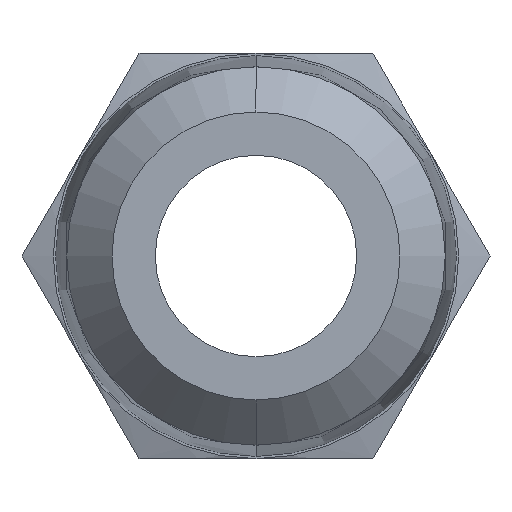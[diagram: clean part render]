
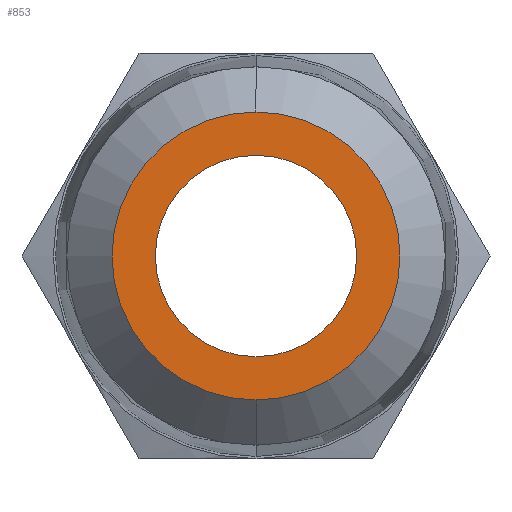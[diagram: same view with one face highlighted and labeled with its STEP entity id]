
A CAD part, left-side view. The second image highlights one B-rep face of the part: STEP entity #853.
In plain terms, the highlighted planar face has unit normal (-1, 0, 0).
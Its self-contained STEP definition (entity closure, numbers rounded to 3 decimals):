
#1 = ORIENTED_EDGE ( 'NONE', *, *, #867, .T. ) ;
#3 = ORIENTED_EDGE ( 'NONE', *, *, #923, .F. ) ;
#230 = DIRECTION ( 'NONE',  ( 0., 0., 1. ) ) ;
#231 = DIRECTION ( 'NONE',  ( -1., 0., 0. ) ) ;
#232 = CARTESIAN_POINT ( 'NONE',  ( -14., 0., 0. ) ) ;
#233 = AXIS2_PLACEMENT_3D ( 'NONE', #232, #231, #230 ) ;
#254 = FACE_BOUND ( 'NONE', #866, .T. ) ;
#255 = FACE_OUTER_BOUND ( 'NONE', #1058, .T. ) ;
#256 = PLANE ( 'NONE',  #233 ) ;
#259 = CARTESIAN_POINT ( 'NONE',  ( -14., 0., 0. ) ) ;
#260 = AXIS2_PLACEMENT_3D ( 'NONE', #259, #266, #265 ) ;
#261 = CIRCLE ( 'NONE', #260, 5.077 ) ;
#265 = DIRECTION ( 'NONE',  ( 0., 0., 1. ) ) ;
#266 = DIRECTION ( 'NONE',  ( -1., 0., 0. ) ) ;
#359 = DIRECTION ( 'NONE',  ( -1., 0., 0. ) ) ;
#360 = CARTESIAN_POINT ( 'NONE',  ( -14., 0., 0. ) ) ;
#361 = AXIS2_PLACEMENT_3D ( 'NONE', #360, #359, #379 ) ;
#362 = CIRCLE ( 'NONE', #361, 3.55 ) ;
#378 = CARTESIAN_POINT ( 'NONE',  ( -14., 0., 3.55 ) ) ;
#379 = DIRECTION ( 'NONE',  ( 0., 0., 1. ) ) ;
#380 = CARTESIAN_POINT ( 'NONE',  ( -14., 0., -3.55 ) ) ;
#458 = CARTESIAN_POINT ( 'NONE',  ( -14., 0., 0. ) ) ;
#459 = AXIS2_PLACEMENT_3D ( 'NONE', #458, #620, #619 ) ;
#460 = CIRCLE ( 'NONE', #459, 5.077 ) ;
#617 = CARTESIAN_POINT ( 'NONE',  ( -14., 0., -5.077 ) ) ;
#618 = CARTESIAN_POINT ( 'NONE',  ( -14., 0., 5.077 ) ) ;
#619 = DIRECTION ( 'NONE',  ( 0., 0., 1. ) ) ;
#620 = DIRECTION ( 'NONE',  ( -1., 0., 0. ) ) ;
#734 = DIRECTION ( 'NONE',  ( 0., 0., 1. ) ) ;
#735 = DIRECTION ( 'NONE',  ( -1., 0., 0. ) ) ;
#736 = CARTESIAN_POINT ( 'NONE',  ( -14., 0., 0. ) ) ;
#737 = AXIS2_PLACEMENT_3D ( 'NONE', #736, #735, #734 ) ;
#738 = CIRCLE ( 'NONE', #737, 3.55 ) ;
#853 = ADVANCED_FACE ( 'NONE', ( #255, #254 ), #256, .T. ) ;
#866 = EDGE_LOOP ( 'NONE', ( #3, #879 ) ) ;
#867 = EDGE_CURVE ( 'NONE', #1083, #1082, #261, .T. ) ;
#879 = ORIENTED_EDGE ( 'NONE', *, *, #1039, .F. ) ;
#917 = VERTEX_POINT ( 'NONE', #380 ) ;
#923 = EDGE_CURVE ( 'NONE', #917, #924, #362, .T. ) ;
#924 = VERTEX_POINT ( 'NONE', #378 ) ;
#1039 = EDGE_CURVE ( 'NONE', #924, #917, #738, .T. ) ;
#1057 = ORIENTED_EDGE ( 'NONE', *, *, #1081, .T. ) ;
#1058 = EDGE_LOOP ( 'NONE', ( #1, #1057 ) ) ;
#1081 = EDGE_CURVE ( 'NONE', #1082, #1083, #460, .T. ) ;
#1082 = VERTEX_POINT ( 'NONE', #618 ) ;
#1083 = VERTEX_POINT ( 'NONE', #617 ) ;
